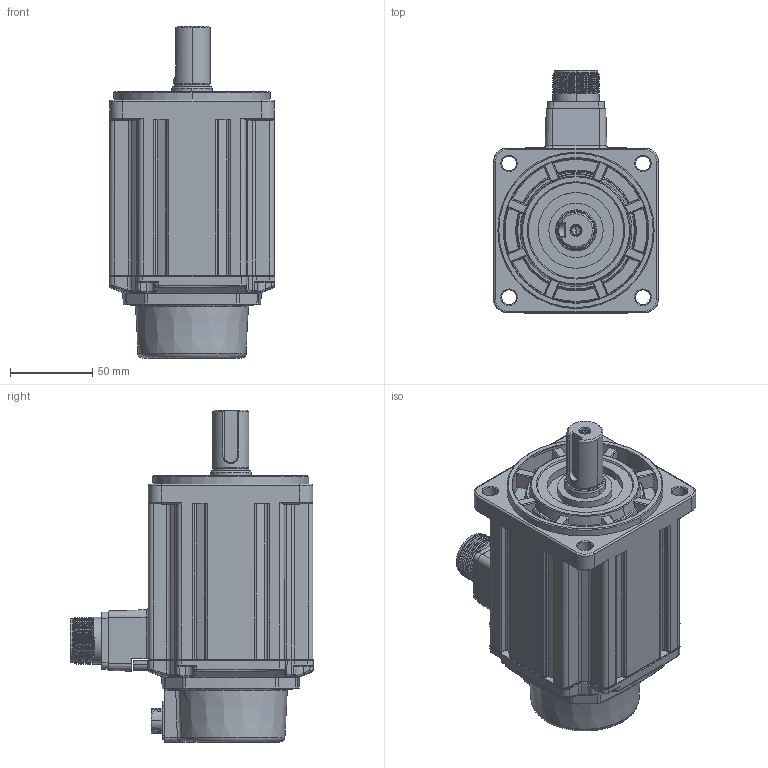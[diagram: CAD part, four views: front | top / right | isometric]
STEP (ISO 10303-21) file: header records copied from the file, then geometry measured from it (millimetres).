
FILE_DESCRIPTION((''),'2;1');
FILE_NAME('ECM-B3M-C21015RS1_20220429','2022-04-29T15:53:10',('CHHSU.HSU'),(''),'CREO PARAMETRIC BY PTC INC, 2020454','CREO PARAMETRIC BY PTC INC, 2020454','');
FILE_SCHEMA(('AUTOMOTIVE_DESIGN { 1 0 10303 214 1 1 1 1 }'));
Products named in the file (1): ECM-B3M-C21015RS1_20220429
Bounding box: 100.74 x 147.77 x 201.8 mm (x, y, z)
Volume: 1242319.1 mm3; surface area: 114135.7 mm2
Topology: 1 solids, 6 shells, 2054 faces, 5436 edges, 3473 vertices
Faces by surface type: plane 895, cylinder 584, cone 257, bspline 178, torus 104, sphere 20, extrusion 16
Entity records: 82882 total; most frequent: CARTESIAN_POINT 28760, ORIENTED_EDGE 10784, DIRECTION 9602, EDGE_CURVE 5392, VERTEX_POINT 3473, AXIS2_PLACEMENT_3D 3375, VECTOR 2849, LINE 2833
